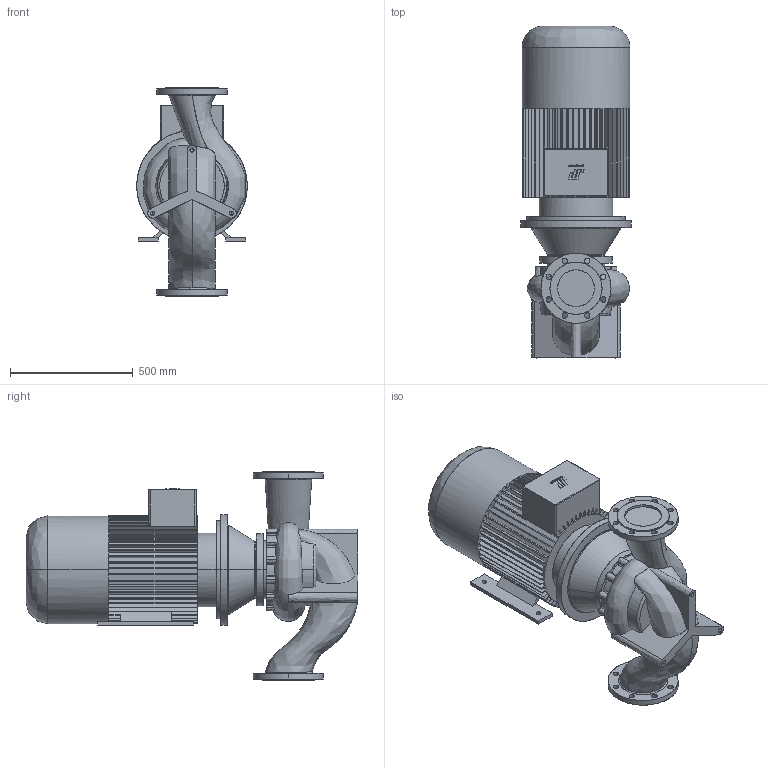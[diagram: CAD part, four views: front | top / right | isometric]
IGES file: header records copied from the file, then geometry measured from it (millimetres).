
Start section: CombiLine
Global section: file name: CLB_150-250_IEC225M_ND10.igs; native system:  By UGS Corp.; preprocessor: XPlus GENERIC/IGES 3.0; author: Stageplaats; organization: Johnson Pump Water B.V.; date: 20070718.085454; units: millimetre
Bounding box: 450 x 1350.5 x 850 mm (x, y, z)
Surface area: 3822959.7 mm2 (no closed solid volume)
Topology: 0 solids, 0 shells, 622 faces, 3764 edges, 3758 vertices
Faces by surface type: bspline 622
